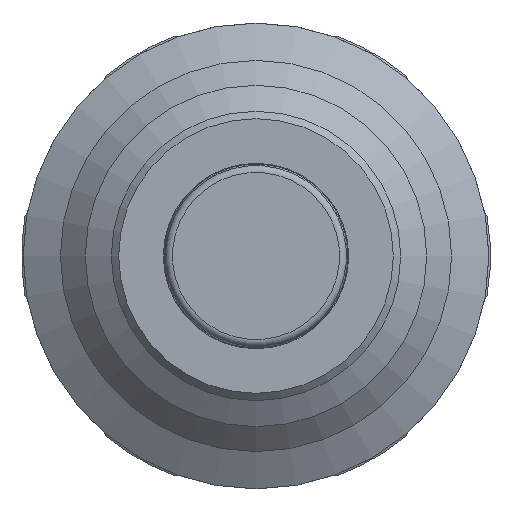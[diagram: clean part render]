
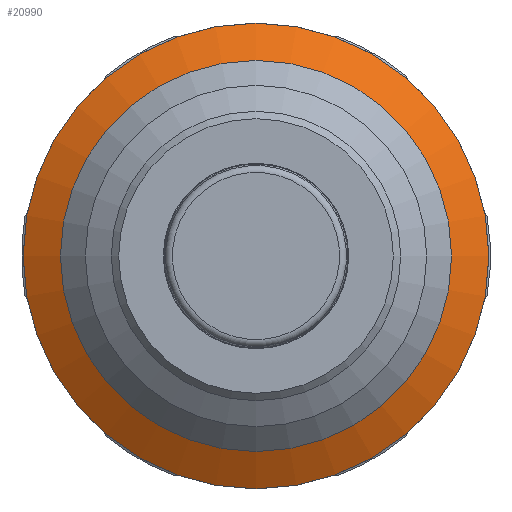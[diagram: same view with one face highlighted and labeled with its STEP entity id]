
A CAD part, front view. The second image highlights one B-rep face of the part: STEP entity #20990.
In plain terms, the highlighted conical face has half-angle 60 degrees and reference radius 14.623 mm.
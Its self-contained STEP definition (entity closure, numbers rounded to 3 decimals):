
#36=CONICAL_SURFACE('',#21974,14.623,1.047);
#1782=FACE_OUTER_BOUND('',#2919,.T.);
#2919=EDGE_LOOP('',(#16557,#16558,#16559,#16560,#16561));
#5163=CIRCLE('',#21975,13.35);
#5164=CIRCLE('',#21976,13.35);
#5165=CIRCLE('',#21977,15.896);
#6002=LINE('',#38092,#7214);
#7214=VECTOR('',#23950,14.623);
#8925=VERTEX_POINT('',#38087);
#8926=VERTEX_POINT('',#38088);
#8927=VERTEX_POINT('',#38091);
#11613=EDGE_CURVE('',#8925,#8926,#5163,.T.);
#11614=EDGE_CURVE('',#8926,#8925,#5164,.T.);
#11615=EDGE_CURVE('',#8925,#8927,#6002,.T.);
#11616=EDGE_CURVE('',#8927,#8927,#5165,.T.);
#16557=ORIENTED_EDGE('',*,*,#11613,.T.);
#16558=ORIENTED_EDGE('',*,*,#11614,.T.);
#16559=ORIENTED_EDGE('',*,*,#11615,.T.);
#16560=ORIENTED_EDGE('',*,*,#11616,.T.);
#16561=ORIENTED_EDGE('',*,*,#11615,.F.);
#20990=ADVANCED_FACE('',(#1782),#36,.T.);
#21974=AXIS2_PLACEMENT_3D('',#38086,#23944,#23945);
#21975=AXIS2_PLACEMENT_3D('',#38089,#23946,#23947);
#21976=AXIS2_PLACEMENT_3D('',#38090,#23948,#23949);
#21977=AXIS2_PLACEMENT_3D('',#38093,#23951,#23952);
#23944=DIRECTION('center_axis',(0.,1.,0.));
#23945=DIRECTION('ref_axis',(-1.,0.,0.));
#23946=DIRECTION('center_axis',(0.,1.,0.));
#23947=DIRECTION('ref_axis',(-1.,0.,0.));
#23948=DIRECTION('center_axis',(0.,1.,0.));
#23949=DIRECTION('ref_axis',(-1.,0.,0.));
#23950=DIRECTION('',(0.866,0.5,0.));
#23951=DIRECTION('center_axis',(0.,-1.,0.));
#23952=DIRECTION('ref_axis',(-1.,0.,0.));
#38086=CARTESIAN_POINT('Origin',(0.,13.52,0.));
#38087=CARTESIAN_POINT('',(13.35,12.785,0.));
#38088=CARTESIAN_POINT('',(-13.35,12.785,0.));
#38089=CARTESIAN_POINT('Origin',(0.,12.785,0.));
#38090=CARTESIAN_POINT('Origin',(0.,12.785,0.));
#38091=CARTESIAN_POINT('',(15.896,14.255,0.));
#38092=CARTESIAN_POINT('',(14.623,13.52,0.));
#38093=CARTESIAN_POINT('Origin',(0.,14.255,0.));
